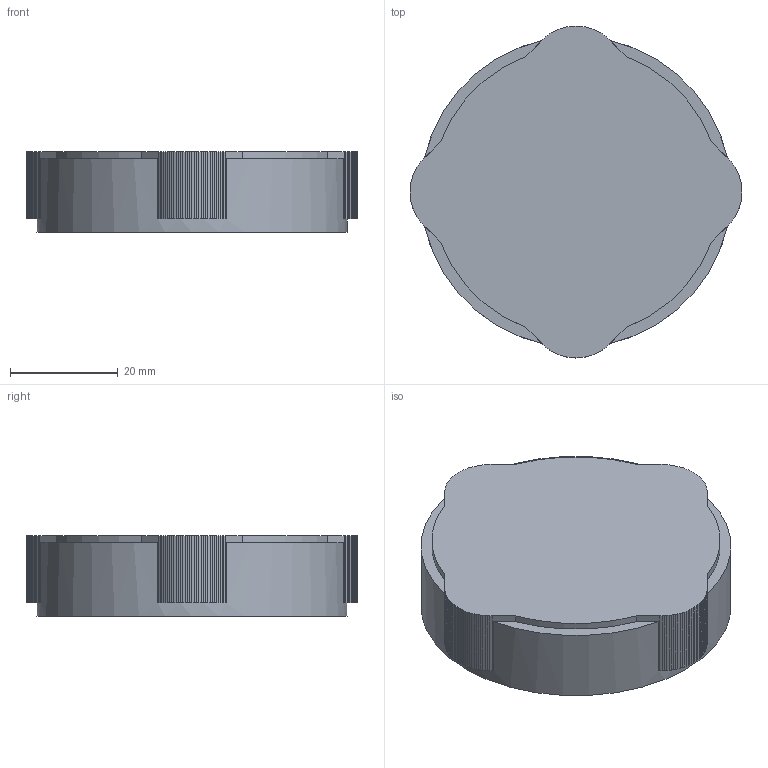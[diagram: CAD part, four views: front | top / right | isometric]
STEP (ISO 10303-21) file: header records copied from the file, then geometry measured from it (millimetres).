
FILE_DESCRIPTION(('Open CASCADE Model'),'2;1');
FILE_NAME('Open CASCADE Shape Model','2026-11-13T05:00:00',('Author'),( 'Open CASCADE'),'Open CASCADE STEP processor 7.9','Open CASCADE 7.9' ,'Unknown');
FILE_SCHEMA(('AUTOMOTIVE_DESIGN { 1 0 10303 214 1 1 1 1 }'));
Length unit declared in the file: millimetre
Products named in the file (1): Open CASCADE STEP translator 7.9 9
Bounding box: 61.6 x 61.6 x 15 mm (x, y, z)
Volume: 11811.4 mm3; surface area: 10602.6 mm2
Topology: 1 solids, 1 shells, 169 faces, 489 edges, 326 vertices
Faces by surface type: plane 158, cylinder 11
Full cylindrical faces by diameter (mm): 50 x1, 51.95 x1, 57.6 x1
Entity records: 11797 total; most frequent: CARTESIAN_POINT 2069, DIRECTION 1766, LINE 1343, VECTOR 1343, ORIENTED_EDGE 978, PCURVE 978, DEFINITIONAL_REPRESENTATION 978, EDGE_CURVE 489
